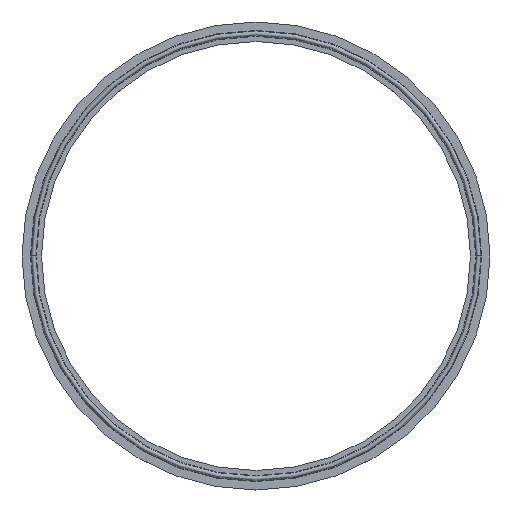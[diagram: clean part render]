
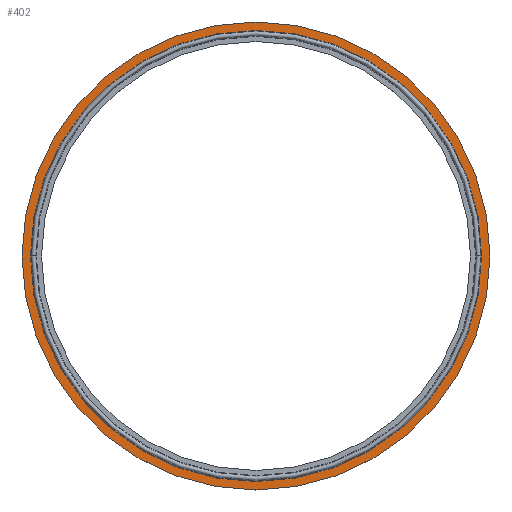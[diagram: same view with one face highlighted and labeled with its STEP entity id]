
A CAD part, top view. The second image highlights one B-rep face of the part: STEP entity #402.
In plain terms, the highlighted planar face has unit normal (0, 0, 1).
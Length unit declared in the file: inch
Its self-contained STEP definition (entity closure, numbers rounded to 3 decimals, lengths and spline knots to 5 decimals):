
#11 = EDGE_CURVE ( 'NONE', #179, #522, #386, .T. ) ;
#24 = PLANE ( 'NONE',  #167 ) ;
#56 = CARTESIAN_POINT ( 'NONE',  ( 5.13688, 0., 0. ) ) ;
#62 = CARTESIAN_POINT ( 'NONE',  ( 0., 0., 0. ) ) ;
#72 = DIRECTION ( 'NONE',  ( 1., 0., 0. ) ) ;
#76 = CARTESIAN_POINT ( 'NONE',  ( 0., 0., 0. ) ) ;
#77 = ORIENTED_EDGE ( 'NONE', *, *, #324, .F. ) ;
#79 = VERTEX_POINT ( 'NONE', #56 ) ;
#86 = ORIENTED_EDGE ( 'NONE', *, *, #283, .T. ) ;
#101 = DIRECTION ( 'NONE',  ( 1., 0., 0. ) ) ;
#144 = AXIS2_PLACEMENT_3D ( 'NONE', #269, #410, #101 ) ;
#152 = DIRECTION ( 'NONE',  ( 0., 0., -1. ) ) ;
#156 = FACE_BOUND ( 'NONE', #404, .T. ) ;
#159 = CIRCLE ( 'NONE', #349, 5.33 ) ;
#167 = AXIS2_PLACEMENT_3D ( 'NONE', #378, #152, #286 ) ;
#179 = VERTEX_POINT ( 'NONE', #551 ) ;
#187 = ORIENTED_EDGE ( 'NONE', *, *, #463, .F. ) ;
#197 = DIRECTION ( 'NONE',  ( 1., 0., 0. ) ) ;
#210 = AXIS2_PLACEMENT_3D ( 'NONE', #76, #251, #387 ) ;
#239 = DIRECTION ( 'NONE',  ( 0., 0., 1. ) ) ;
#251 = DIRECTION ( 'NONE',  ( 0., 0., 1. ) ) ;
#269 = CARTESIAN_POINT ( 'NONE',  ( 0., 0., 0. ) ) ;
#283 = EDGE_CURVE ( 'NONE', #522, #179, #159, .T. ) ;
#286 = DIRECTION ( 'NONE',  ( -1., 0., 0. ) ) ;
#324 = EDGE_CURVE ( 'NONE', #79, #393, #474, .T. ) ;
#328 = FACE_OUTER_BOUND ( 'NONE', #397, .T. ) ;
#331 = AXIS2_PLACEMENT_3D ( 'NONE', #464, #239, #72 ) ;
#341 = ORIENTED_EDGE ( 'NONE', *, *, #11, .T. ) ;
#349 = AXIS2_PLACEMENT_3D ( 'NONE', #62, #537, #197 ) ;
#378 = CARTESIAN_POINT ( 'NONE',  ( 0., 5.13688, 0. ) ) ;
#386 = CIRCLE ( 'NONE', #144, 5.33 ) ;
#387 = DIRECTION ( 'NONE',  ( 1., 0., 0. ) ) ;
#393 = VERTEX_POINT ( 'NONE', #417 ) ;
#397 = EDGE_LOOP ( 'NONE', ( #86, #341 ) ) ;
#402 = ADVANCED_FACE ( 'NONE', ( #156, #328 ), #24, .F. ) ;
#404 = EDGE_LOOP ( 'NONE', ( #77, #187 ) ) ;
#410 = DIRECTION ( 'NONE',  ( 0., 0., 1. ) ) ;
#417 = CARTESIAN_POINT ( 'NONE',  ( -5.13688, 0., 0. ) ) ;
#425 = CIRCLE ( 'NONE', #210, 5.13688 ) ;
#463 = EDGE_CURVE ( 'NONE', #393, #79, #425, .T. ) ;
#464 = CARTESIAN_POINT ( 'NONE',  ( 0., 0., 0. ) ) ;
#474 = CIRCLE ( 'NONE', #331, 5.13688 ) ;
#522 = VERTEX_POINT ( 'NONE', #530 ) ;
#530 = CARTESIAN_POINT ( 'NONE',  ( 5.33, 0., 0. ) ) ;
#537 = DIRECTION ( 'NONE',  ( 0., 0., 1. ) ) ;
#551 = CARTESIAN_POINT ( 'NONE',  ( -5.33, 0., 0. ) ) ;
